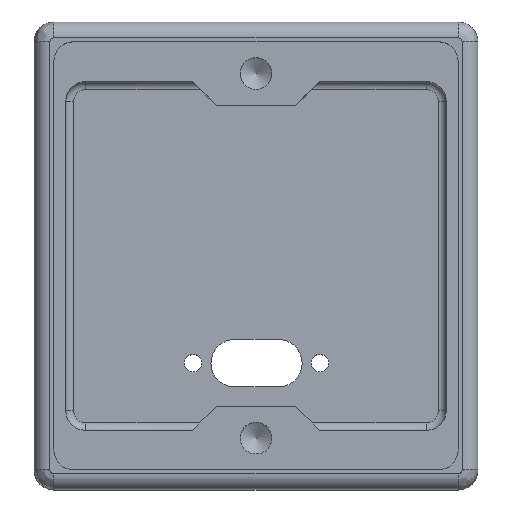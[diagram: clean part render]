
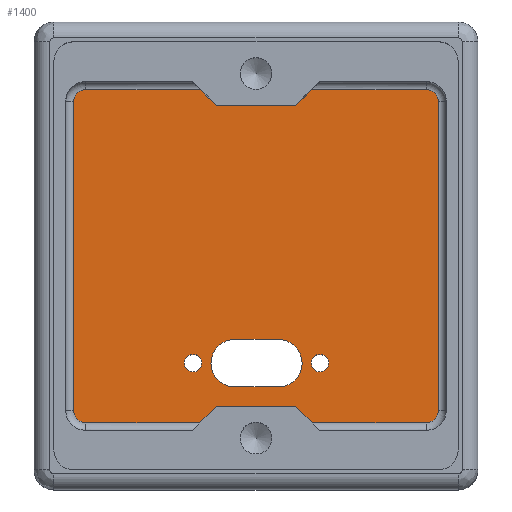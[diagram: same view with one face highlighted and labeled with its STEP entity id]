
A CAD part, top view. The second image highlights one B-rep face of the part: STEP entity #1400.
In plain terms, the highlighted planar face has unit normal (0, 0, 1).
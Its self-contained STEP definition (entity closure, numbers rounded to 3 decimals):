
#34=FACE_BOUND('',#490,.T.);
#35=FACE_BOUND('',#491,.T.);
#36=FACE_BOUND('',#492,.T.);
#64=PLANE('',#1576);
#92=LINE('',#2238,#200);
#95=LINE('',#2253,#203);
#97=LINE('',#2265,#205);
#101=LINE('',#2273,#209);
#110=LINE('',#2299,#218);
#113=LINE('',#2314,#221);
#115=LINE('',#2326,#223);
#119=LINE('',#2334,#227);
#141=LINE('',#2456,#249);
#145=LINE('',#2465,#253);
#149=LINE('',#2475,#257);
#157=LINE('',#2502,#265);
#159=LINE('',#2506,#267);
#160=LINE('',#2508,#268);
#200=VECTOR('',#1716,10.);
#203=VECTOR('',#1733,10.);
#205=VECTOR('',#1747,10.);
#209=VECTOR('',#1753,10.);
#218=VECTOR('',#1780,10.);
#221=VECTOR('',#1797,10.);
#223=VECTOR('',#1811,10.);
#227=VECTOR('',#1817,10.);
#249=VECTOR('',#1915,10.);
#253=VECTOR('',#1925,10.);
#257=VECTOR('',#1937,10.);
#265=VECTOR('',#1961,10.);
#267=VECTOR('',#1965,10.);
#268=VECTOR('',#1968,10.);
#398=FACE_OUTER_BOUND('',#489,.T.);
#489=EDGE_LOOP('',(#1285,#1286,#1287,#1288,#1289,#1290,#1291,#1292,#1293,
#1294,#1295,#1296,#1297,#1298,#1299,#1300));
#490=EDGE_LOOP('',(#1301));
#491=EDGE_LOOP('',(#1302));
#492=EDGE_LOOP('',(#1303,#1304,#1305,#1306));
#534=CIRCLE('',#1474,1.5);
#538=CIRCLE('',#1480,1.5);
#544=CIRCLE('',#1497,1.5);
#548=CIRCLE('',#1503,1.5);
#569=CIRCLE('',#1541,1.1);
#570=CIRCLE('',#1543,1.1);
#571=CIRCLE('',#1546,3.);
#572=CIRCLE('',#1549,3.);
#626=VERTEX_POINT('',#2234);
#628=VERTEX_POINT('',#2237);
#630=VERTEX_POINT('',#2243);
#632=VERTEX_POINT('',#2249);
#634=VERTEX_POINT('',#2255);
#637=VERTEX_POINT('',#2262);
#640=VERTEX_POINT('',#2271);
#646=VERTEX_POINT('',#2295);
#648=VERTEX_POINT('',#2298);
#650=VERTEX_POINT('',#2304);
#652=VERTEX_POINT('',#2310);
#654=VERTEX_POINT('',#2316);
#657=VERTEX_POINT('',#2323);
#660=VERTEX_POINT('',#2332);
#683=VERTEX_POINT('',#2446);
#684=VERTEX_POINT('',#2450);
#685=VERTEX_POINT('',#2454);
#686=VERTEX_POINT('',#2455);
#687=VERTEX_POINT('',#2460);
#688=VERTEX_POINT('',#2464);
#690=VERTEX_POINT('',#2473);
#702=VERTEX_POINT('',#2504);
#773=EDGE_CURVE('',#626,#628,#92,.T.);
#778=EDGE_CURVE('',#628,#630,#534,.T.);
#781=EDGE_CURVE('',#630,#632,#95,.T.);
#784=EDGE_CURVE('',#632,#634,#538,.T.);
#787=EDGE_CURVE('',#634,#637,#97,.T.);
#791=EDGE_CURVE('',#640,#626,#101,.F.);
#803=EDGE_CURVE('',#646,#648,#110,.T.);
#808=EDGE_CURVE('',#648,#650,#544,.T.);
#811=EDGE_CURVE('',#650,#652,#113,.T.);
#814=EDGE_CURVE('',#652,#654,#548,.T.);
#817=EDGE_CURVE('',#654,#657,#115,.T.);
#821=EDGE_CURVE('',#660,#646,#119,.F.);
#862=EDGE_CURVE('',#683,#683,#569,.T.);
#864=EDGE_CURVE('',#684,#684,#570,.T.);
#865=EDGE_CURVE('',#685,#686,#141,.T.);
#868=EDGE_CURVE('',#686,#687,#571,.T.);
#870=EDGE_CURVE('',#687,#688,#145,.T.);
#872=EDGE_CURVE('',#688,#685,#572,.T.);
#875=EDGE_CURVE('',#690,#660,#149,.T.);
#889=EDGE_CURVE('',#637,#690,#157,.F.);
#891=EDGE_CURVE('',#702,#640,#159,.T.);
#892=EDGE_CURVE('',#657,#702,#160,.F.);
#1285=ORIENTED_EDGE('',*,*,#773,.F.);
#1286=ORIENTED_EDGE('',*,*,#791,.F.);
#1287=ORIENTED_EDGE('',*,*,#891,.F.);
#1288=ORIENTED_EDGE('',*,*,#892,.F.);
#1289=ORIENTED_EDGE('',*,*,#817,.F.);
#1290=ORIENTED_EDGE('',*,*,#814,.F.);
#1291=ORIENTED_EDGE('',*,*,#811,.F.);
#1292=ORIENTED_EDGE('',*,*,#808,.F.);
#1293=ORIENTED_EDGE('',*,*,#803,.F.);
#1294=ORIENTED_EDGE('',*,*,#821,.F.);
#1295=ORIENTED_EDGE('',*,*,#875,.F.);
#1296=ORIENTED_EDGE('',*,*,#889,.F.);
#1297=ORIENTED_EDGE('',*,*,#787,.F.);
#1298=ORIENTED_EDGE('',*,*,#784,.F.);
#1299=ORIENTED_EDGE('',*,*,#781,.F.);
#1300=ORIENTED_EDGE('',*,*,#778,.F.);
#1301=ORIENTED_EDGE('',*,*,#862,.T.);
#1302=ORIENTED_EDGE('',*,*,#864,.T.);
#1303=ORIENTED_EDGE('',*,*,#870,.T.);
#1304=ORIENTED_EDGE('',*,*,#872,.T.);
#1305=ORIENTED_EDGE('',*,*,#865,.T.);
#1306=ORIENTED_EDGE('',*,*,#868,.T.);
#1400=ADVANCED_FACE('',(#398,#34,#35,#36),#64,.F.);
#1474=AXIS2_PLACEMENT_3D('',#2247,#1726,#1727);
#1480=AXIS2_PLACEMENT_3D('',#2259,#1740,#1741);
#1497=AXIS2_PLACEMENT_3D('',#2308,#1790,#1791);
#1503=AXIS2_PLACEMENT_3D('',#2320,#1804,#1805);
#1541=AXIS2_PLACEMENT_3D('',#2448,#1906,#1907);
#1543=AXIS2_PLACEMENT_3D('',#2452,#1911,#1912);
#1546=AXIS2_PLACEMENT_3D('',#2461,#1920,#1921);
#1549=AXIS2_PLACEMENT_3D('',#2468,#1929,#1930);
#1576=AXIS2_PLACEMENT_3D('',#2539,#2009,#2010);
#1716=DIRECTION('',(1.,0.,0.));
#1726=DIRECTION('center_axis',(0.,0.,-1.));
#1727=DIRECTION('ref_axis',(0.707,0.707,0.));
#1733=DIRECTION('',(0.,-1.,0.));
#1740=DIRECTION('center_axis',(0.,0.,-1.));
#1741=DIRECTION('ref_axis',(0.707,-0.707,0.));
#1747=DIRECTION('',(-1.,0.,0.));
#1753=DIRECTION('',(-0.707,-0.707,0.));
#1780=DIRECTION('',(-1.,0.,0.));
#1790=DIRECTION('center_axis',(0.,0.,-1.));
#1791=DIRECTION('ref_axis',(-0.707,-0.707,0.));
#1797=DIRECTION('',(0.,1.,0.));
#1804=DIRECTION('center_axis',(0.,0.,-1.));
#1805=DIRECTION('ref_axis',(-0.707,0.707,0.));
#1811=DIRECTION('',(1.,0.,0.));
#1817=DIRECTION('',(0.707,0.707,0.));
#1906=DIRECTION('center_axis',(0.,0.,-1.));
#1907=DIRECTION('ref_axis',(1.,0.,0.));
#1911=DIRECTION('center_axis',(0.,0.,-1.));
#1912=DIRECTION('ref_axis',(1.,0.,0.));
#1915=DIRECTION('',(-1.,0.,0.));
#1920=DIRECTION('center_axis',(0.,0.,-1.));
#1921=DIRECTION('ref_axis',(0.,-1.,0.));
#1925=DIRECTION('',(1.,0.,0.));
#1929=DIRECTION('center_axis',(0.,0.,-1.));
#1930=DIRECTION('ref_axis',(0.,1.,0.));
#1937=DIRECTION('',(-1.,0.,0.));
#1961=DIRECTION('',(0.707,-0.707,0.));
#1965=DIRECTION('',(1.,0.,0.));
#1968=DIRECTION('',(-0.707,0.707,0.));
#2009=DIRECTION('center_axis',(0.,0.,-1.));
#2010=DIRECTION('ref_axis',(-1.,0.,0.));
#2234=CARTESIAN_POINT('',(7.,21.,2.));
#2237=CARTESIAN_POINT('',(21.5,21.,2.));
#2238=CARTESIAN_POINT('',(4.,21.,2.));
#2243=CARTESIAN_POINT('',(23.,19.5,2.));
#2247=CARTESIAN_POINT('Origin',(21.5,19.5,2.));
#2249=CARTESIAN_POINT('',(23.,-19.5,2.));
#2253=CARTESIAN_POINT('',(23.,11.,2.));
#2255=CARTESIAN_POINT('',(21.5,-21.,2.));
#2259=CARTESIAN_POINT('Origin',(21.5,-19.5,2.));
#2262=CARTESIAN_POINT('',(7.,-21.,2.));
#2265=CARTESIAN_POINT('',(12.,-21.,2.));
#2271=CARTESIAN_POINT('',(5.,19.,2.));
#2273=CARTESIAN_POINT('',(-0.25,13.75,2.));
#2295=CARTESIAN_POINT('',(-7.,-21.,2.));
#2298=CARTESIAN_POINT('',(-21.5,-21.,2.));
#2299=CARTESIAN_POINT('',(-4.,-21.,2.));
#2304=CARTESIAN_POINT('',(-23.,-19.5,2.));
#2308=CARTESIAN_POINT('Origin',(-21.5,-19.5,2.));
#2310=CARTESIAN_POINT('',(-23.,19.5,2.));
#2314=CARTESIAN_POINT('',(-23.,-11.,2.));
#2316=CARTESIAN_POINT('',(-21.5,21.,2.));
#2320=CARTESIAN_POINT('Origin',(-21.5,19.5,2.));
#2323=CARTESIAN_POINT('',(-7.,21.,2.));
#2326=CARTESIAN_POINT('',(-12.,21.,2.));
#2332=CARTESIAN_POINT('',(-5.,-19.,2.));
#2334=CARTESIAN_POINT('',(0.25,-13.75,2.));
#2446=CARTESIAN_POINT('',(6.966,-13.5,2.));
#2448=CARTESIAN_POINT('Origin',(8.066,-13.5,2.));
#2450=CARTESIAN_POINT('',(-9.034,-13.5,2.));
#2452=CARTESIAN_POINT('Origin',(-7.934,-13.5,2.));
#2454=CARTESIAN_POINT('',(2.822,-16.5,2.));
#2455=CARTESIAN_POINT('',(-2.688,-16.5,2.));
#2456=CARTESIAN_POINT('',(-1.344,-16.5,2.));
#2460=CARTESIAN_POINT('',(-2.689,-10.5,2.));
#2461=CARTESIAN_POINT('Origin',(-2.689,-13.5,2.));
#2464=CARTESIAN_POINT('',(2.821,-10.5,2.));
#2465=CARTESIAN_POINT('',(1.411,-10.5,2.));
#2468=CARTESIAN_POINT('Origin',(2.821,-13.5,2.));
#2473=CARTESIAN_POINT('',(5.,-19.,2.));
#2475=CARTESIAN_POINT('',(24.,-19.,2.));
#2502=CARTESIAN_POINT('',(-0.25,-13.75,2.));
#2504=CARTESIAN_POINT('',(-5.,19.,2.));
#2506=CARTESIAN_POINT('',(-24.,19.,2.));
#2508=CARTESIAN_POINT('',(0.25,13.75,2.));
#2539=CARTESIAN_POINT('Origin',(0.,0.,
2.));
